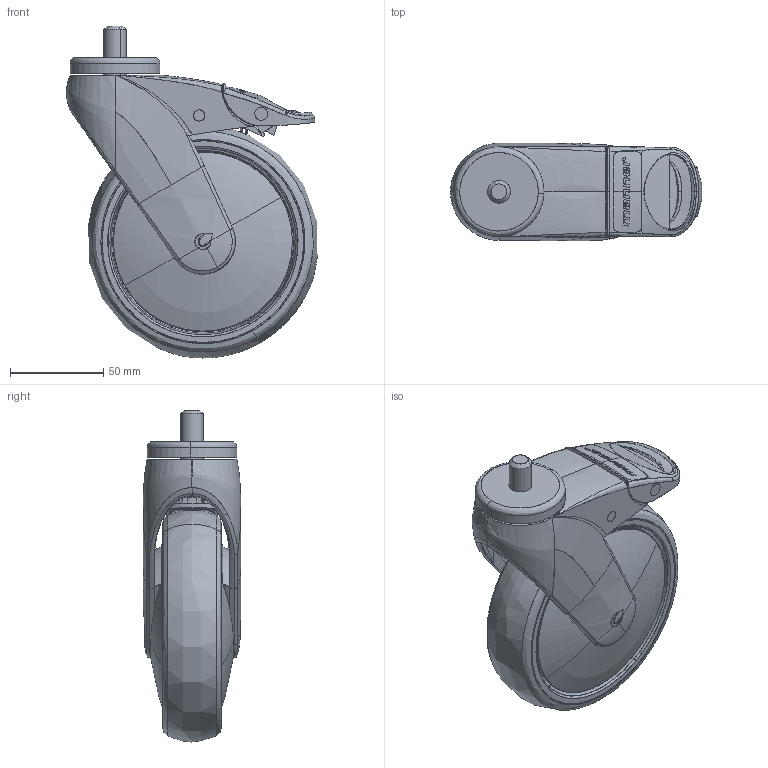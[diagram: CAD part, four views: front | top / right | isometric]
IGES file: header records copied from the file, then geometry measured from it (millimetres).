
Start section: SolidWorks IGES file using analytic representation for surfaces
Global section: file name: S:\Tyokansio\VL\301657_IGES.IGS; native system: SolidWorks 2011; preprocessor: SolidWorks 2011; author: VilleLa; date: 110610.142139; units: millimetre
Bounding box: 134.34 x 52 x 177.6 mm (x, y, z)
Surface area: 114753.8 mm2 (no closed solid volume)
Topology: 0 solids, 0 shells, 559 faces, 10179 edges, 10163 vertices
Faces by surface type: bspline 444, revolution 115
